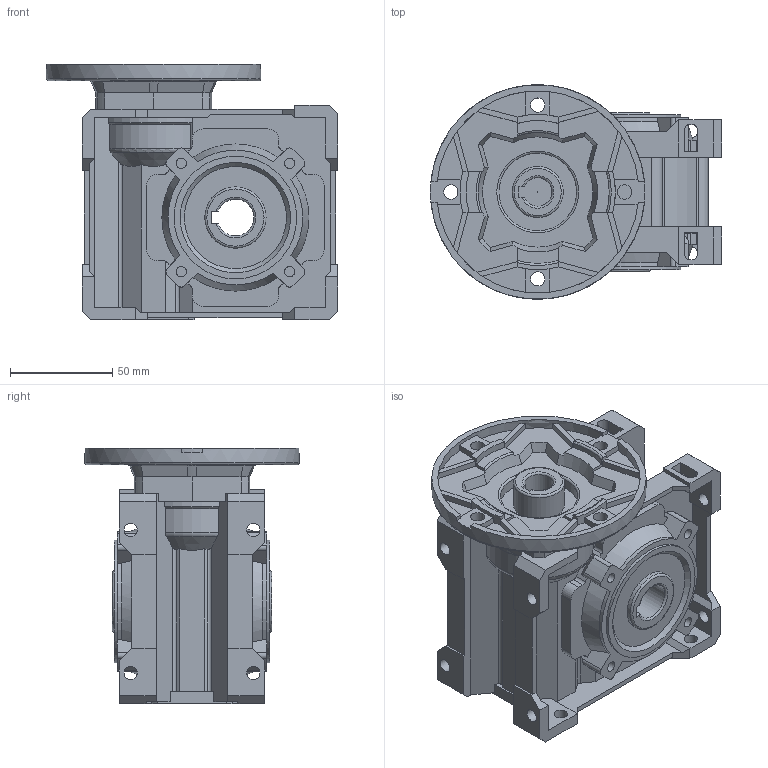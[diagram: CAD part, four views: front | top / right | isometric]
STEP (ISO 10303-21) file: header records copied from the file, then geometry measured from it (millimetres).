
FILE_DESCRIPTION( ( 'Unknown' ), '1' );
FILE_NAME( 'E:/services/configuratordownloads/customers/tramec/xh/download/A17F62B02CC49B126BF6770F7F2F710/STEP/A17F62B02CC49B126BF6770F7F2F710.3d.stp', 'Unknown', ( 'Unknown' ), ( 'Unknown' ), 'PSStep 10.1', 'Unknown', ' ' );
FILE_SCHEMA( ( 'AUTOMOTIVE_DESIGN { 1 0 10303 214 1 1 1 1 }' ) );
Length unit declared in the file: millimetre
Products named in the file (1): 1011615011 Corpo riduttore XC40
Bounding box: 142.5 x 105 x 125 mm (x, y, z)
Volume: 604291.8 mm3; surface area: 121952.2 mm2
Topology: 1 solids, 13 shells, 651 faces, 1763 edges, 1150 vertices
Faces by surface type: plane 381, cylinder 187, cone 42, torus 39, sphere 1, bspline 1
Full cylindrical faces by diameter (mm): 0.1 x1, 5 x8, 6.5 x12, 7 x4, 21.225 x1, 25 x1, 25.71 x1, 30 x3, 33.7 x1, 38 x1, 49.5 x1, 55 x1, 60 x2, 105 x1
Entity records: 25962 total; most frequent: CARTESIAN_POINT 4528, ORIENTED_EDGE 3380, DIRECTION 3301, EDGE_CURVE 1690, AXIS2_PLACEMENT_3D 1134, VERTEX_POINT 1131, LINE 1033, VECTOR 1033
